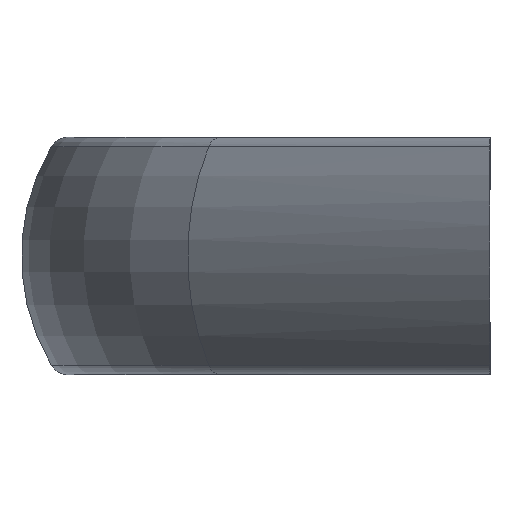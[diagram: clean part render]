
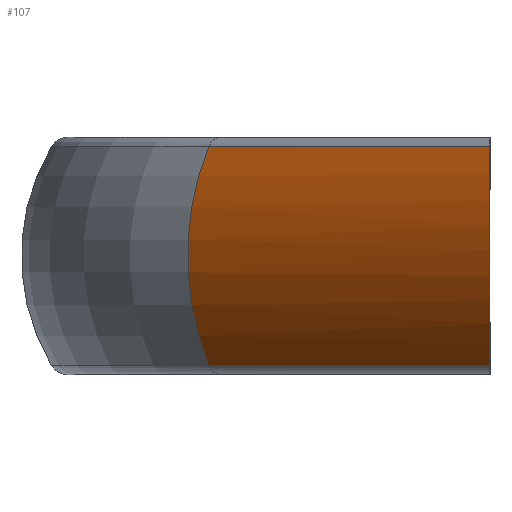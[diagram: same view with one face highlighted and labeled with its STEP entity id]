
A CAD part, left-side view. The second image highlights one B-rep face of the part: STEP entity #107.
In plain terms, the highlighted cylindrical face has radius 32.5 mm (diameter 65 mm), a partial arc.
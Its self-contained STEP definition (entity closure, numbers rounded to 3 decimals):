
#107 = ADVANCED_FACE( '', ( #181 ), #182, .T. );
#181 = FACE_OUTER_BOUND( '', #263, .T. );
#182 = CYLINDRICAL_SURFACE( '', #264, 32.5 );
#263 = EDGE_LOOP( '', ( #512, #513, #514, #515 ) );
#264 = AXIS2_PLACEMENT_3D( '', #516, #517, #518 );
#512 = ORIENTED_EDGE( '', *, *, #644, .F. );
#513 = ORIENTED_EDGE( '', *, *, #643, .T. );
#514 = ORIENTED_EDGE( '', *, *, #623, .F. );
#515 = ORIENTED_EDGE( '', *, *, #645, .F. );
#516 = CARTESIAN_POINT( '', ( -296.979, -65.558, 0. ) );
#517 = DIRECTION( '', ( -0.707, -0.707, 0. ) );
#518 = DIRECTION( '', ( -0.707, 0.707, 0. ) );
#623 = EDGE_CURVE( '', #748, #751, #752, .T. );
#643 = EDGE_CURVE( '', #777, #751, #779, .T. );
#644 = EDGE_CURVE( '', #777, #780, #781, .T. );
#645 = EDGE_CURVE( '', #780, #748, #782, .T. );
#748 = VERTEX_POINT( '', #904 );
#751 = VERTEX_POINT( '', #907 );
#752 = CIRCLE( '', #908, 32.5 );
#777 = VERTEX_POINT( '', #939 );
#779 = LINE( '', #941, #942 );
#780 = VERTEX_POINT( '', #943 );
#781 = ELLIPSE( '', #944, 45.962, 32.5 );
#782 = LINE( '', #945, #946 );
#904 = CARTESIAN_POINT( '', ( -228.379, 42.619, -16.525 ) );
#907 = CARTESIAN_POINT( '', ( -228.379, 42.619, 16.525 ) );
#908 = AXIS2_PLACEMENT_3D( '', #1088, #1089, #1090 );
#939 = CARTESIAN_POINT( '', ( -270.997, 0., 16.525 ) );
#941 = CARTESIAN_POINT( '', ( -316.767, -45.77, 16.525 ) );
#942 = VECTOR( '', #1136, 1000. );
#943 = CARTESIAN_POINT( '', ( -270.997, 0., -16.525 ) );
#944 = AXIS2_PLACEMENT_3D( '', #1137, #1138, #1139 );
#945 = CARTESIAN_POINT( '', ( -316.767, -45.77, -16.525 ) );
#946 = VECTOR( '', #1140, 1000. );
#1088 = CARTESIAN_POINT( '', ( -208.59, 22.83, 0. ) );
#1089 = DIRECTION( '', ( 0.707, 0.707, 0. ) );
#1090 = DIRECTION( '', ( 0., 0., -1. ) );
#1136 = DIRECTION( '', ( 0.707, 0.707, 0. ) );
#1137 = CARTESIAN_POINT( '', ( -231.42, 0., 0. ) );
#1138 = DIRECTION( '', ( 0., -1., 0. ) );
#1139 = DIRECTION( '', ( 1., 0., 0. ) );
#1140 = DIRECTION( '', ( 0.707, 0.707, 0. ) );
